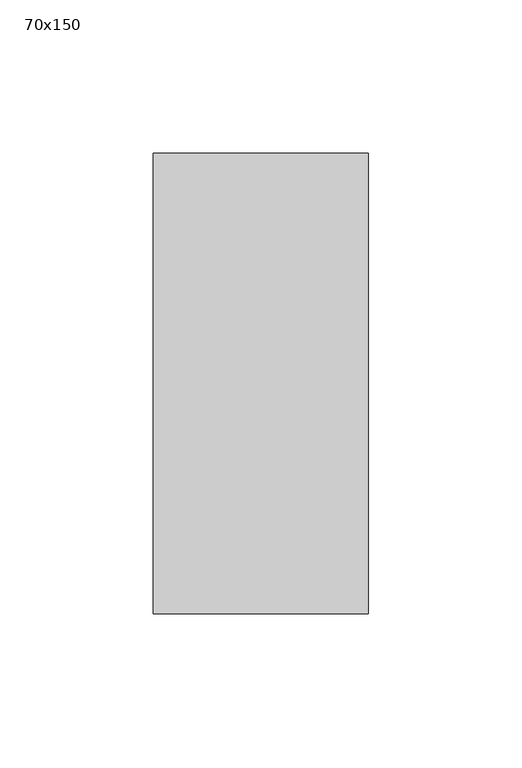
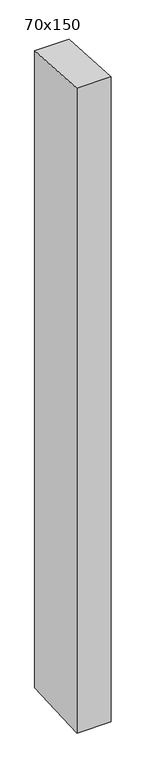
"""IFC4 building model written with IfcOpenShell, lengths in millimetres: member geometry, 長方形のマリオン : 70x150."""

from ifc_helpers import new_model, si_unit, frame, origin, place, context, project, spatial, polyline, outline, extrude, source, transform, mapped, element, save


def member_70x150_a4de2db9(model_context):
    return source(origin(), model_context, "Body", "SweptSolid", [
        extrude(outline(polyline([(-75.0, 4.9473546), (75.0, -4.9473546), (75.0, -1384.6350535), (-75.0, -1392.1148042), (-75.0, 4.9473546)])), frame((-35.0, 0.0, 0.0), z_axis=(1.0, 0.0, 0.0), x_axis=(0.0, 1.0, 0.0)), (0.0, 0.0, 1.0), 70.0),
    ])


if __name__ == "__main__":
    model = new_model("IFC4")
    model_context = context("Model", 3, world=origin())
    ifc_project = project(units=[si_unit("LENGTHUNIT", "METRE", prefix="MILLI")], contexts=[model_context])
    site = spatial("IfcSite", under=ifc_project)
    building = spatial("IfcBuilding", under=site)
    placement = place(None, origin())
    member_70x150_shape = member_70x150_a4de2db9(model_context)
    element("IfcMember", 1, ObjectType="長方形のマリオン : 70x150", at=placement, inside=building, context=model_context, shape_type="MappedRepresentation", body=[
        mapped(member_70x150_shape, transform((0.0, 0.0, 0.0), x_axis=(1.0, 0.0, 0.0), y_axis=(0.0, 1.0, 0.0), z_axis=(0.0, 0.0, 1.0))),
    ])
    save(model, "model.ifc")
